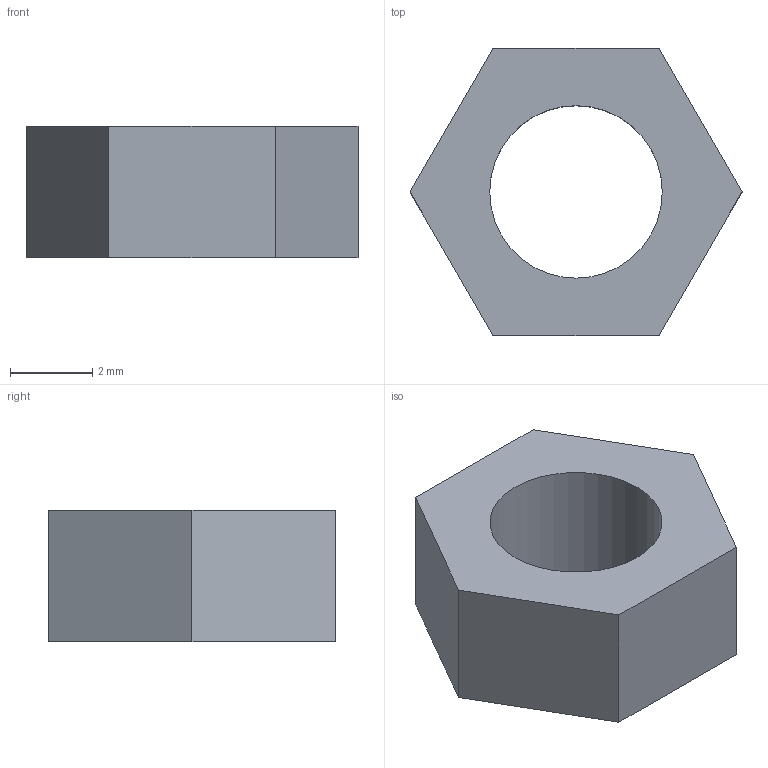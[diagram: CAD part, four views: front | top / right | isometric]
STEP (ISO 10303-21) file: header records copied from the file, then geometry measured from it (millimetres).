
FILE_DESCRIPTION(('FreeCAD Model'),'2;1');
FILE_NAME('Open CASCADE Shape Model','2026-10-30T14:44:59',('FreeCAD'),( 'FreeCAD'),'Open CASCADE STEP processor 7.8','FreeCAD','Unknown');
FILE_SCHEMA(('AUTOMOTIVE_DESIGN { 1 0 10303 214 1 1 1 1 }'));
Length unit declared in the file: millimetre
Products named in the file (1): Open CASCADE STEP translator 7.8 3
Bounding box: 8.08 x 7 x 3.2 mm (x, y, z)
Volume: 91.5 mm3; surface area: 177 mm2
Topology: 1 solids, 1 shells, 9 faces, 21 edges, 14 vertices
Faces by surface type: plane 8, cylinder 1
Full cylindrical faces by diameter (mm): 4.2 x1
Entity records: 271 total; most frequent: CARTESIAN_POINT 45, DIRECTION 43, ORIENTED_EDGE 42, EDGE_CURVE 21, LINE 19, VECTOR 19, VERTEX_POINT 14, AXIS2_PLACEMENT_3D 12
